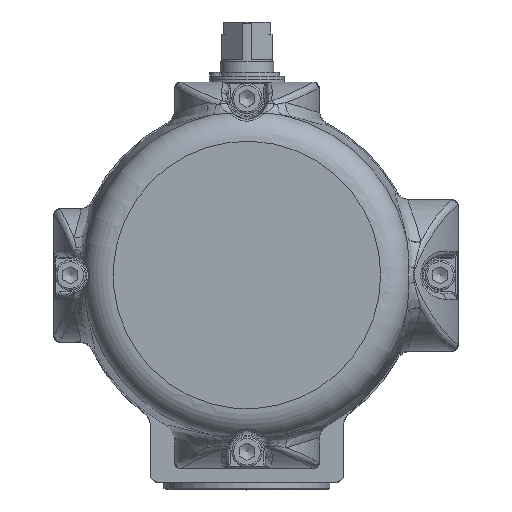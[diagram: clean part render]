
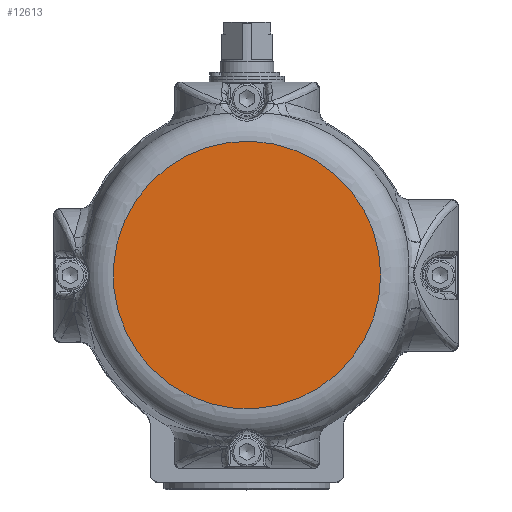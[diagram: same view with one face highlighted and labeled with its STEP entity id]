
A CAD part, top view. The second image highlights one B-rep face of the part: STEP entity #12613.
In plain terms, the highlighted planar face has unit normal (0, 0, 1).
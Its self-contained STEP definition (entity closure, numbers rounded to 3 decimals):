
#6914=CARTESIAN_POINT('',(44.308,0.,105.75));
#6915=VERTEX_POINT('',#6914);
#6916=CARTESIAN_POINT('',(0.,0.,105.75));
#6917=DIRECTION('',(0.0,0.0,-1.0));
#6918=DIRECTION('',(1.0,0.0,0.0));
#6919=AXIS2_PLACEMENT_3D('',#6916,#6917,#6918);
#6920=CIRCLE('',#6919,44.308);
#6921=EDGE_CURVE('',#6915,#6915,#6920,.T.);
#12605=CARTESIAN_POINT('',(22.154,0.,105.75));
#12606=DIRECTION('',(0.0,0.0,1.0));
#12607=DIRECTION('',(0.0,1.0,0.0));
#12608=AXIS2_PLACEMENT_3D('',#12605,#12606,#12607);
#12609=PLANE('',#12608);
#12610=ORIENTED_EDGE('',*,*,#6921,.F.);
#12611=EDGE_LOOP('',(#12610));
#12612=FACE_OUTER_BOUND('',#12611,.T.);
#12613=ADVANCED_FACE('',(#12612),#12609,.T.);
